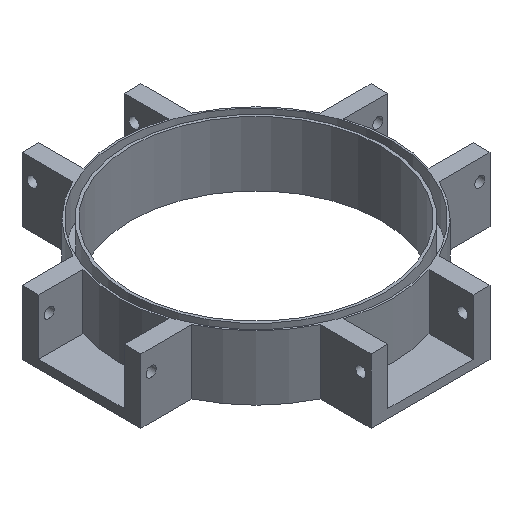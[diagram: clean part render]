
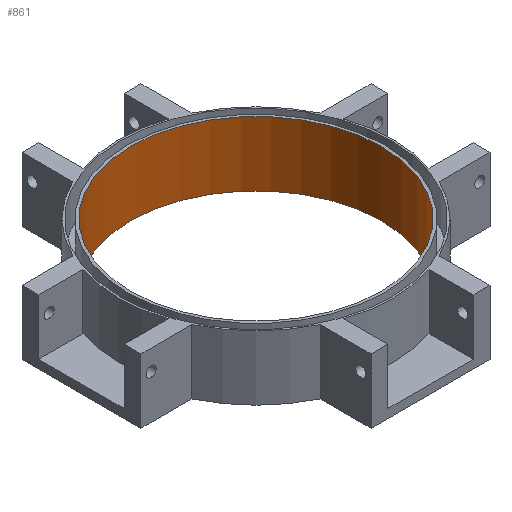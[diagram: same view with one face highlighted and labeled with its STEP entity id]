
A CAD part, isometric view. The second image highlights one B-rep face of the part: STEP entity #861.
In plain terms, the highlighted cylindrical face has radius 37 mm (diameter 74 mm), a full revolution.
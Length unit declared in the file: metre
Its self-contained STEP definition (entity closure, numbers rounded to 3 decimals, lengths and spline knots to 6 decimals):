
#56=CIRCLE('',#938,0.037);
#57=CIRCLE('',#939,0.037);
#110=ORIENTED_EDGE('',*,*,#346,.T.);
#111=ORIENTED_EDGE('',*,*,#347,.F.);
#346=EDGE_CURVE('',#464,#464,#56,.T.);
#347=EDGE_CURVE('',#465,#465,#57,.T.);
#464=VERTEX_POINT('',#1325);
#465=VERTEX_POINT('',#1327);
#686=EDGE_LOOP('',(#110));
#687=EDGE_LOOP('',(#111));
#764=FACE_BOUND('',#686,.T.);
#765=FACE_BOUND('',#687,.T.);
#842=CYLINDRICAL_SURFACE('',#937,0.037);
#861=ADVANCED_FACE('',(#764,#765),#842,.F.);
#937=AXIS2_PLACEMENT_3D('',#1323,#1064,#1065);
#938=AXIS2_PLACEMENT_3D('',#1324,#1066,#1067);
#939=AXIS2_PLACEMENT_3D('',#1326,#1068,#1069);
#1064=DIRECTION('',(0.,0.,-1.));
#1065=DIRECTION('',(-1.,0.,0.));
#1066=DIRECTION('',(0.,0.,1.));
#1067=DIRECTION('',(1.,0.,0.));
#1068=DIRECTION('',(0.,0.,1.));
#1069=DIRECTION('',(1.,0.,0.));
#1323=CARTESIAN_POINT('',(0.,0.,0.002));
#1324=CARTESIAN_POINT('',(0.,0.,0.012));
#1325=CARTESIAN_POINT('',(0.037,0.,0.012));
#1326=CARTESIAN_POINT('',(0.,0.,-0.007));
#1327=CARTESIAN_POINT('',(0.037,0.,-0.007));
